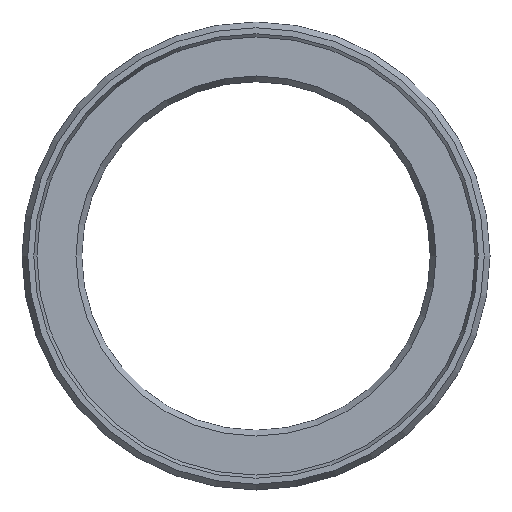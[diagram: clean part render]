
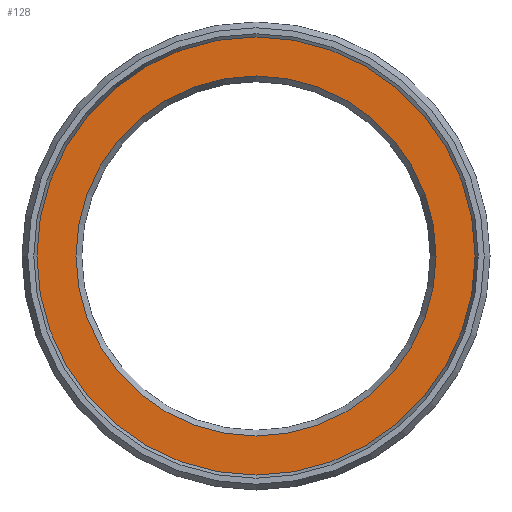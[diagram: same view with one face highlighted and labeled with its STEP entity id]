
A CAD part, left-side view. The second image highlights one B-rep face of the part: STEP entity #128.
In plain terms, the highlighted planar face has unit normal (-1, 0, 0).
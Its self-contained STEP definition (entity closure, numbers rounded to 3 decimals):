
#112=PLANE('',#329);
#128=ADVANCED_FACE('',(#163,#164),#112,.T.);
#163=FACE_BOUND('',#199,.T.);
#164=FACE_BOUND('',#200,.T.);
#199=EDGE_LOOP('',(#235));
#200=EDGE_LOOP('',(#236));
#235=ORIENTED_EDGE('',*,*,#276,.T.);
#236=ORIENTED_EDGE('',*,*,#275,.F.);
#257=VERTEX_POINT('',#454);
#258=VERTEX_POINT('',#457);
#275=EDGE_CURVE('',#257,#257,#293,.T.);
#276=EDGE_CURVE('',#258,#258,#294,.T.);
#293=CIRCLE('',#326,22.);
#294=CIRCLE('',#328,18.077);
#326=AXIS2_PLACEMENT_3D('',#453,#394,#395);
#328=AXIS2_PLACEMENT_3D('',#456,#398,#399);
#329=AXIS2_PLACEMENT_3D('',#458,#400,#401);
#394=DIRECTION('',(1.,0.,0.));
#395=DIRECTION('',(0.,0.,-1.));
#398=DIRECTION('',(1.,0.,0.));
#399=DIRECTION('',(0.,0.,1.));
#400=DIRECTION('',(-1.,0.,0.));
#401=DIRECTION('',(0.,0.,1.));
#453=CARTESIAN_POINT('',(0.,0.,0.));
#454=CARTESIAN_POINT('',(0.,0.,-22.));
#456=CARTESIAN_POINT('',(0.,0.,0.));
#457=CARTESIAN_POINT('',(0.,0.,18.077));
#458=CARTESIAN_POINT('',(0.,22.,0.));
